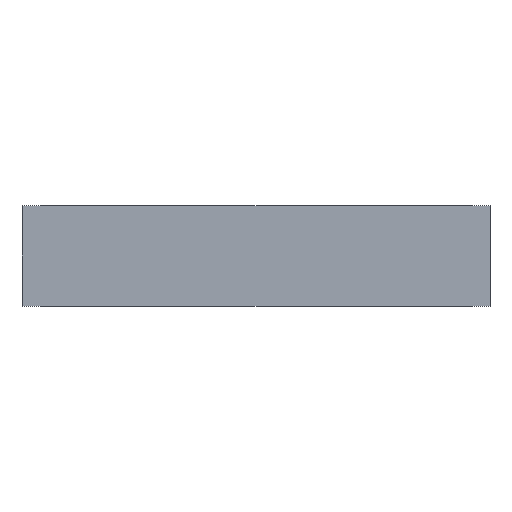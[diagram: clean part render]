
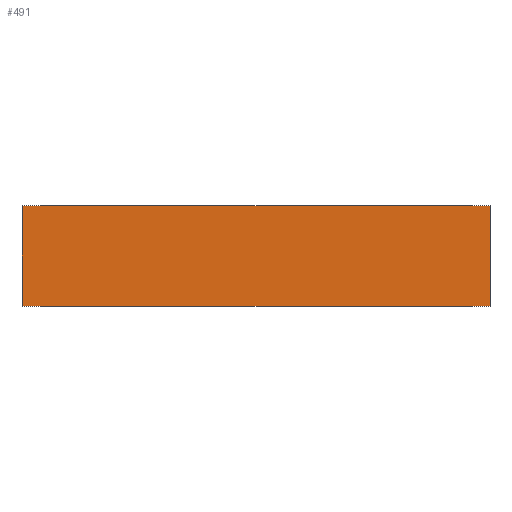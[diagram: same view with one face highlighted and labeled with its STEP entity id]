
A CAD part, front view. The second image highlights one B-rep face of the part: STEP entity #491.
In plain terms, the highlighted planar face has unit normal (0, -1, 0).
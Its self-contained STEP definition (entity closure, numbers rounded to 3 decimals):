
#21 = VECTOR ( 'NONE', #268, 1000. ) ;
#51 = LINE ( 'NONE', #288, #21 ) ;
#116 = FACE_OUTER_BOUND ( 'NONE', #684, .T. ) ;
#147 = ORIENTED_EDGE ( 'NONE', *, *, #628, .T. ) ;
#148 = ORIENTED_EDGE ( 'NONE', *, *, #598, .F. ) ;
#149 = ORIENTED_EDGE ( 'NONE', *, *, #618, .F. ) ;
#150 = ORIENTED_EDGE ( 'NONE', *, *, #612, .T. ) ;
#186 = DIRECTION ( 'NONE',  ( 0., 0., -1. ) ) ;
#187 = CARTESIAN_POINT ( 'NONE',  ( -151., 0., 65. ) ) ;
#209 = DIRECTION ( 'NONE',  ( 0., 0., -1. ) ) ;
#210 = CARTESIAN_POINT ( 'NONE',  ( 151., 0., 65. ) ) ;
#225 = DIRECTION ( 'NONE',  ( 1., 0., 0. ) ) ;
#226 = CARTESIAN_POINT ( 'NONE',  ( -151., 0., 0. ) ) ;
#268 = DIRECTION ( 'NONE',  ( 1., 0., 0. ) ) ;
#288 = CARTESIAN_POINT ( 'NONE',  ( -151., 0., 65. ) ) ;
#374 = CARTESIAN_POINT ( 'NONE',  ( -151., 0., 0. ) ) ;
#391 = CARTESIAN_POINT ( 'NONE',  ( 151., 0., 65. ) ) ;
#392 = CARTESIAN_POINT ( 'NONE',  ( -151., 0., 65. ) ) ;
#422 = VERTEX_POINT ( 'NONE', #546 ) ;
#442 = DIRECTION ( 'NONE',  ( -1., 0., 0. ) ) ;
#443 = DIRECTION ( 'NONE',  ( 0., 1., 0. ) ) ;
#449 = CARTESIAN_POINT ( 'NONE',  ( -151., 0., 65. ) ) ;
#452 = PLANE ( 'NONE',  #913 ) ;
#491 = ADVANCED_FACE ( 'NONE', ( #116 ), #452, .F. ) ;
#507 = VERTEX_POINT ( 'NONE', #392 ) ;
#508 = VERTEX_POINT ( 'NONE', #391 ) ;
#524 = VERTEX_POINT ( 'NONE', #374 ) ;
#546 = CARTESIAN_POINT ( 'NONE',  ( 151., 0., 0. ) ) ;
#598 = EDGE_CURVE ( 'NONE', #507, #508, #51, .T. ) ;
#612 = EDGE_CURVE ( 'NONE', #524, #422, #887, .T. ) ;
#618 = EDGE_CURVE ( 'NONE', #508, #422, #875, .T. ) ;
#628 = EDGE_CURVE ( 'NONE', #507, #524, #859, .T. ) ;
#684 = EDGE_LOOP ( 'NONE', ( #150, #149, #148, #147 ) ) ;
#858 = VECTOR ( 'NONE', #186, 1000. ) ;
#859 = LINE ( 'NONE', #187, #858 ) ;
#874 = VECTOR ( 'NONE', #209, 1000. ) ;
#875 = LINE ( 'NONE', #210, #874 ) ;
#886 = VECTOR ( 'NONE', #225, 1000. ) ;
#887 = LINE ( 'NONE', #226, #886 ) ;
#913 = AXIS2_PLACEMENT_3D ( 'NONE', #449, #443, #442 ) ;
